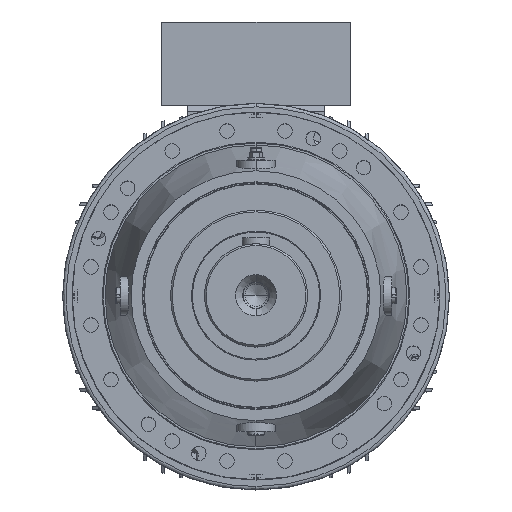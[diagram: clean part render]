
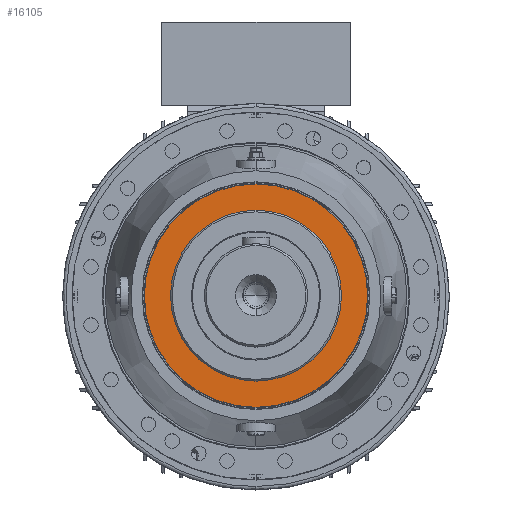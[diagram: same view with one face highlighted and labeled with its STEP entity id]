
A CAD part, top view. The second image highlights one B-rep face of the part: STEP entity #16105.
In plain terms, the highlighted planar face has unit normal (0, 0, 1).
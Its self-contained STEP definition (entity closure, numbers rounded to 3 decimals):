
#4066 = EDGE_LOOP ( 'NONE', ( #5685, #5544 ) ) ;
#4087 = EDGE_LOOP ( 'NONE', ( #5724, #5475 ) ) ;
#5475 = ORIENTED_EDGE ( 'NONE', *, *, #59381, .F. ) ;
#5544 = ORIENTED_EDGE ( 'NONE', *, *, #57837, .F. ) ;
#5685 = ORIENTED_EDGE ( 'NONE', *, *, #59454, .F. ) ;
#5724 = ORIENTED_EDGE ( 'NONE', *, *, #57813, .F. ) ;
#16105 = ADVANCED_FACE ( 'NONE', ( #34894, #34939 ), #86673, .F. ) ;
#19225 = CARTESIAN_POINT ( 'NONE',  ( 0., 0., 203. ) ) ;
#19227 = DIRECTION ( 'NONE',  ( 0., 0., -1. ) ) ;
#19229 = DIRECTION ( 'NONE',  ( 0., 1., 0. ) ) ;
#19367 = DIRECTION ( 'NONE',  ( 0., 0., 1. ) ) ;
#19371 = CARTESIAN_POINT ( 'NONE',  ( 0., 0., 203. ) ) ;
#19373 = DIRECTION ( 'NONE',  ( 0., 1., 0. ) ) ;
#23552 = CARTESIAN_POINT ( 'NONE',  ( 0., 0., 203. ) ) ;
#23560 = DIRECTION ( 'NONE',  ( 0., 0., -1. ) ) ;
#23640 = DIRECTION ( 'NONE',  ( 0., 1., 0. ) ) ;
#23821 = CARTESIAN_POINT ( 'NONE',  ( 0., 0., 203. ) ) ;
#23824 = DIRECTION ( 'NONE',  ( 0., 1., 0. ) ) ;
#23875 = DIRECTION ( 'NONE',  ( 0., 0., 1. ) ) ;
#34894 = FACE_BOUND ( 'NONE', #4066, .T. ) ;
#34939 = FACE_OUTER_BOUND ( 'NONE', #4087, .T. ) ;
#39596 = CIRCLE ( 'NONE', #69167, 130. ) ;
#39622 = CIRCLE ( 'NONE', #69221, 99.5 ) ;
#57813 = EDGE_CURVE ( 'NONE', #74611, #74665, #58552, .T. ) ;
#57837 = EDGE_CURVE ( 'NONE', #74748, #74752, #58526, .T. ) ;
#58526 = CIRCLE ( 'NONE', #70440, 99.5 ) ;
#58552 = CIRCLE ( 'NONE', #70420, 130. ) ;
#59381 = EDGE_CURVE ( 'NONE', #74665, #74611, #39596, .T. ) ;
#59454 = EDGE_CURVE ( 'NONE', #74752, #74748, #39622, .T. ) ;
#69167 = AXIS2_PLACEMENT_3D ( 'NONE', #19225, #19227, #19229 ) ;
#69221 = AXIS2_PLACEMENT_3D ( 'NONE', #19371, #19367, #19373 ) ;
#70172 = AXIS2_PLACEMENT_3D ( 'NONE', #86627, #86666, #86645 ) ;
#70420 = AXIS2_PLACEMENT_3D ( 'NONE', #23552, #23560, #23640 ) ;
#70440 = AXIS2_PLACEMENT_3D ( 'NONE', #23821, #23875, #23824 ) ;
#74611 = VERTEX_POINT ( 'NONE', #87570 ) ;
#74665 = VERTEX_POINT ( 'NONE', #87516 ) ;
#74748 = VERTEX_POINT ( 'NONE', #87596 ) ;
#74752 = VERTEX_POINT ( 'NONE', #87602 ) ;
#86627 = CARTESIAN_POINT ( 'NONE',  ( 0., 130., 203. ) ) ;
#86645 = DIRECTION ( 'NONE',  ( 0., 1., 0. ) ) ;
#86666 = DIRECTION ( 'NONE',  ( 0., 0., -1. ) ) ;
#86673 = PLANE ( 'NONE',  #70172 ) ;
#87516 = CARTESIAN_POINT ( 'NONE',  ( 0., -130., 203. ) ) ;
#87570 = CARTESIAN_POINT ( 'NONE',  ( 0., 130., 203. ) ) ;
#87596 = CARTESIAN_POINT ( 'NONE',  ( 0., -99.5, 203. ) ) ;
#87602 = CARTESIAN_POINT ( 'NONE',  ( 0., 99.5, 203. ) ) ;
